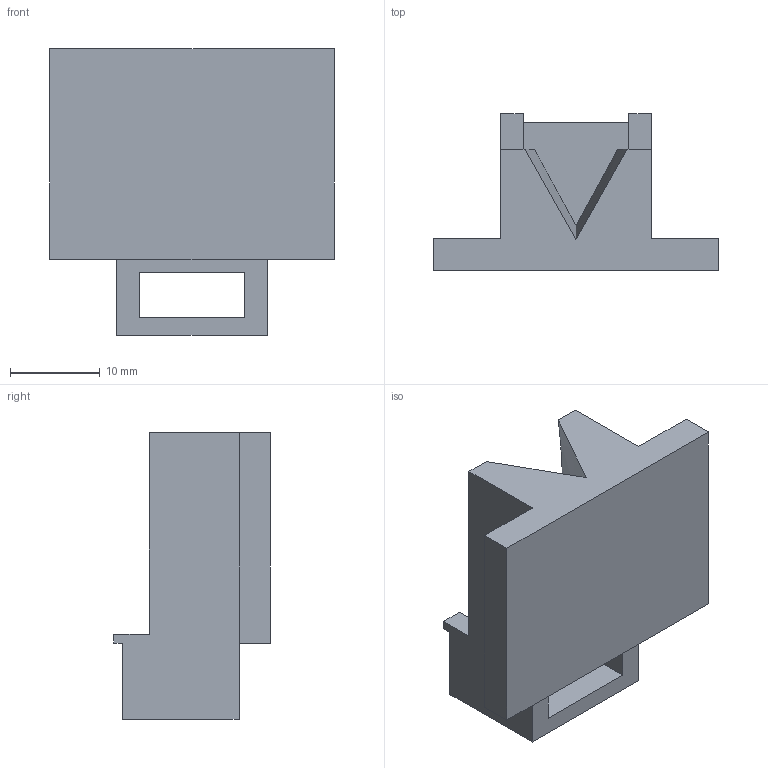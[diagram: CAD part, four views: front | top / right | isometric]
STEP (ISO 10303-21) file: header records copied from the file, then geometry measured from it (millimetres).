
FILE_DESCRIPTION (( 'STEP AP203' ), '1' );
FILE_NAME ('Restraint Large.STEP', '2026-07-10T03:18:31', ( '' ), ( '' ), 'SwSTEP 2.0', 'SolidWorks 2019', '' );
FILE_SCHEMA (( 'CONFIG_CONTROL_DESIGN' ));
Length unit declared in the file: millimetre
Products named in the file (1): Restraint Large
Bounding box: 31.8 x 17.5 x 32 mm (x, y, z)
Volume: 5940.7 mm3; surface area: 3867.8 mm2
Topology: 1 solids, 1 shells, 32 faces, 85 edges, 56 vertices
Faces by surface type: plane 26, cylinder 4, cone 2
Entity records: 1081 total; most frequent: CARTESIAN_POINT 204, ORIENTED_EDGE 170, DIRECTION 154, EDGE_CURVE 85, LINE 70, VECTOR 70, VERTEX_POINT 56, AXIS2_PLACEMENT_3D 42
